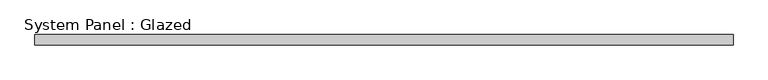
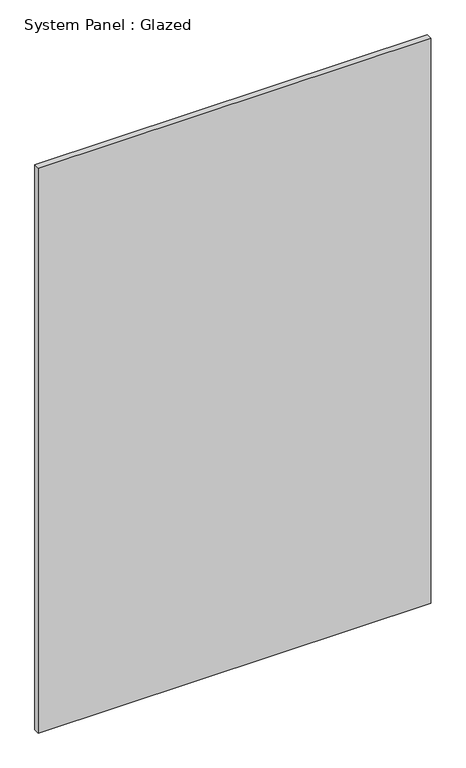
"""IFC4 building model written with IfcOpenShell, lengths in millimetres: plate geometry, System Panel : Glazed."""

from ifc_helpers import new_model, si_unit, origin, origin_with_axes, place, context, project, spatial, polyline, outline, extrude, source, transform, mapped, element, save


def system_panel_glazed_3294a933(model_context):
    return source(origin(), model_context, "Body", "SweptSolid", [
        extrude(outline(polyline([(876.1236512, 19.05), (-876.1236512, 19.05), (-876.1236512, 44.45), (876.1236512, 44.45), (876.1236512, 19.05)])), origin_with_axes(), (0.0, 0.0, 1.0), 2666.6267362),
    ])


if __name__ == "__main__":
    model = new_model("IFC4")
    model_context = context("Model", 3, world=origin())
    ifc_project = project(units=[si_unit("LENGTHUNIT", "METRE", prefix="MILLI")], contexts=[model_context])
    site = spatial("IfcSite", under=ifc_project)
    building = spatial("IfcBuilding", under=site)
    placement = place(None, origin())
    system_panel_glazed_shape = system_panel_glazed_3294a933(model_context)
    element("IfcPlate", 1, ObjectType="System Panel : Glazed", at=placement, inside=building, context=model_context, shape_type="MappedRepresentation", body=[
        mapped(system_panel_glazed_shape, transform((0.0, 0.0, 0.0), x_axis=(1.0, 0.0, 0.0), y_axis=(0.0, 1.0, 0.0), z_axis=(0.0, 0.0, 1.0))),
    ])
    save(model, "model.ifc")
